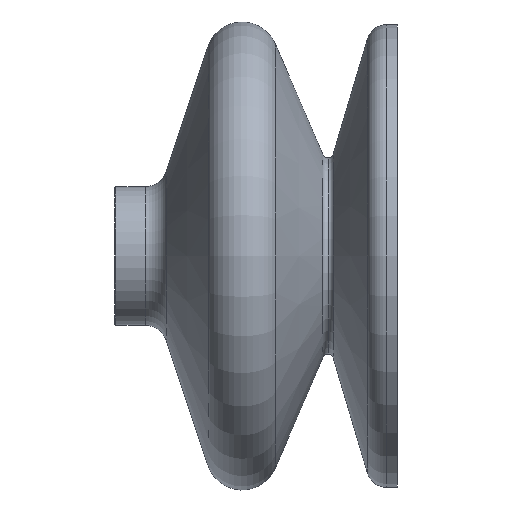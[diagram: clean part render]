
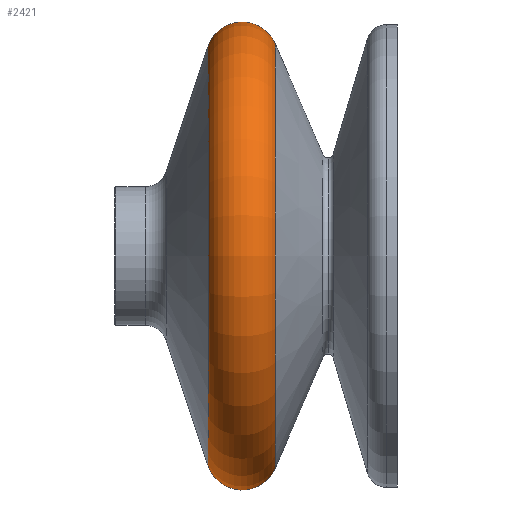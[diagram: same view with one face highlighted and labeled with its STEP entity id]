
A CAD part, left-side view. The second image highlights one B-rep face of the part: STEP entity #2421.
In plain terms, the highlighted toroidal (fillet/blend) face has major radius 35.75 mm and minor radius 6.5 mm.
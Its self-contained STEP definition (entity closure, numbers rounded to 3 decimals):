
#137 = DIRECTION ( 'NONE',  ( 0., 1., 0. ) ) ;
#183 = CARTESIAN_POINT ( 'NONE',  ( 0., -23., 0. ) ) ;
#419 = VERTEX_POINT ( 'NONE', #3662 ) ;
#433 = CARTESIAN_POINT ( 'NONE',  ( 0., -16.835, -37.809 ) ) ;
#495 = CARTESIAN_POINT ( 'NONE',  ( 0., -23., -35.75 ) ) ;
#564 = TOROIDAL_SURFACE ( 'NONE', #1878, 35.75, 6.5 ) ;
#614 = ORIENTED_EDGE ( 'NONE', *, *, #3071, .F. ) ;
#745 = ORIENTED_EDGE ( 'NONE', *, *, #1850, .T. ) ;
#868 = DIRECTION ( 'NONE',  ( 0., 0., 1. ) ) ;
#901 = CIRCLE ( 'NONE', #1797, 38.319 ) ;
#909 = DIRECTION ( 'NONE',  ( 0., 0., -1. ) ) ;
#1460 = AXIS2_PLACEMENT_3D ( 'NONE', #495, #2476, #909 ) ;
#1797 = AXIS2_PLACEMENT_3D ( 'NONE', #2049, #3571, #3889 ) ;
#1850 = EDGE_CURVE ( 'NONE', #3497, #419, #2960, .T. ) ;
#1854 = EDGE_CURVE ( 'NONE', #3604, #2940, #3668, .T. ) ;
#1878 = AXIS2_PLACEMENT_3D ( 'NONE', #183, #3629, #868 ) ;
#1940 = CIRCLE ( 'NONE', #1956, 37.809 ) ;
#1956 = AXIS2_PLACEMENT_3D ( 'NONE', #3283, #137, #2326 ) ;
#2049 = CARTESIAN_POINT ( 'NONE',  ( 0., -28.971, 0. ) ) ;
#2316 = FACE_OUTER_BOUND ( 'NONE', #3850, .T. ) ;
#2326 = DIRECTION ( 'NONE',  ( 0., 0., 1. ) ) ;
#2421 = ADVANCED_FACE ( 'NONE', ( #2316 ), #564, .T. ) ;
#2424 = ORIENTED_EDGE ( 'NONE', *, *, #1854, .F. ) ;
#2476 = DIRECTION ( 'NONE',  ( 1., 0., 0. ) ) ;
#2494 = ORIENTED_EDGE ( 'NONE', *, *, #2970, .T. ) ;
#2940 = VERTEX_POINT ( 'NONE', #433 ) ;
#2960 = CIRCLE ( 'NONE', #3407, 6.5 ) ;
#2970 = EDGE_CURVE ( 'NONE', #3604, #3497, #901, .T. ) ;
#3071 = EDGE_CURVE ( 'NONE', #2940, #419, #1940, .T. ) ;
#3283 = CARTESIAN_POINT ( 'NONE',  ( 0., -16.835, 0. ) ) ;
#3351 = CARTESIAN_POINT ( 'NONE',  ( 0., -28.971, -38.319 ) ) ;
#3407 = AXIS2_PLACEMENT_3D ( 'NONE', #3951, #3898, #3583 ) ;
#3497 = VERTEX_POINT ( 'NONE', #3548 ) ;
#3548 = CARTESIAN_POINT ( 'NONE',  ( 0., -28.971, 38.319 ) ) ;
#3571 = DIRECTION ( 'NONE',  ( 0., 1., 0. ) ) ;
#3583 = DIRECTION ( 'NONE',  ( 0., 0., 1. ) ) ;
#3604 = VERTEX_POINT ( 'NONE', #3351 ) ;
#3629 = DIRECTION ( 'NONE',  ( 0., 1., 0. ) ) ;
#3662 = CARTESIAN_POINT ( 'NONE',  ( 0., -16.835, 37.809 ) ) ;
#3668 = CIRCLE ( 'NONE', #1460, 6.5 ) ;
#3850 = EDGE_LOOP ( 'NONE', ( #2424, #2494, #745, #614 ) ) ;
#3889 = DIRECTION ( 'NONE',  ( 0., 0., 1. ) ) ;
#3898 = DIRECTION ( 'NONE',  ( -1., 0., 0. ) ) ;
#3951 = CARTESIAN_POINT ( 'NONE',  ( 0., -23., 35.75 ) ) ;
